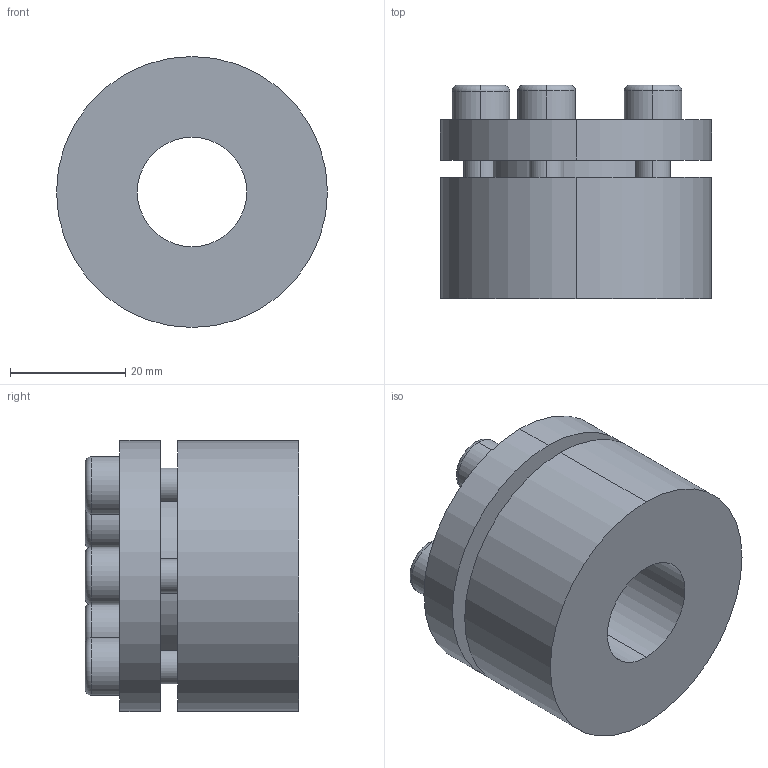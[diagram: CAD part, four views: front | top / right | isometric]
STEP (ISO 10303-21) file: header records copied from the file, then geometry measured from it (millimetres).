
FILE_DESCRIPTION (( 'STEP AP203' ), '1' );
FILE_NAME ('PL-H1 19-47.STEP', '2021-10-23T00:52:40', ( '' ), ( '' ), 'SwSTEP 2.0', 'SolidWorks 2018', '' );
FILE_SCHEMA (( 'CONFIG_CONTROL_DESIGN' ));
Length unit declared in the file: millimetre
Products named in the file (1): PL-H1 19-47
Bounding box: 47 x 37 x 47 mm (x, y, z)
Volume: 44151 mm3; surface area: 12338.7 mm2
Topology: 1 solids, 1 shells, 88 faces, 212 edges, 138 vertices
Faces by surface type: plane 44, cylinder 34, torus 10
Entity records: 2665 total; most frequent: DIRECTION 478, CARTESIAN_POINT 439, ORIENTED_EDGE 424, EDGE_CURVE 212, AXIS2_PLACEMENT_3D 177, VERTEX_POINT 138, VECTOR 124, LINE 124
